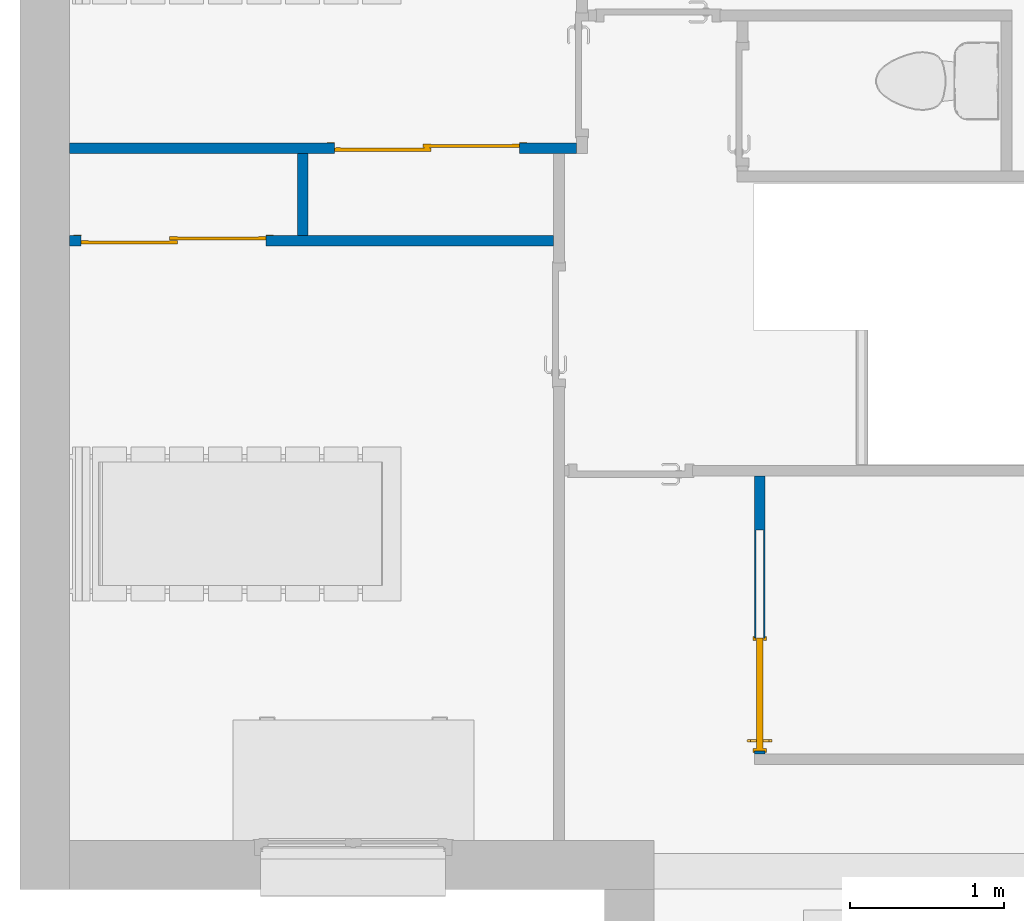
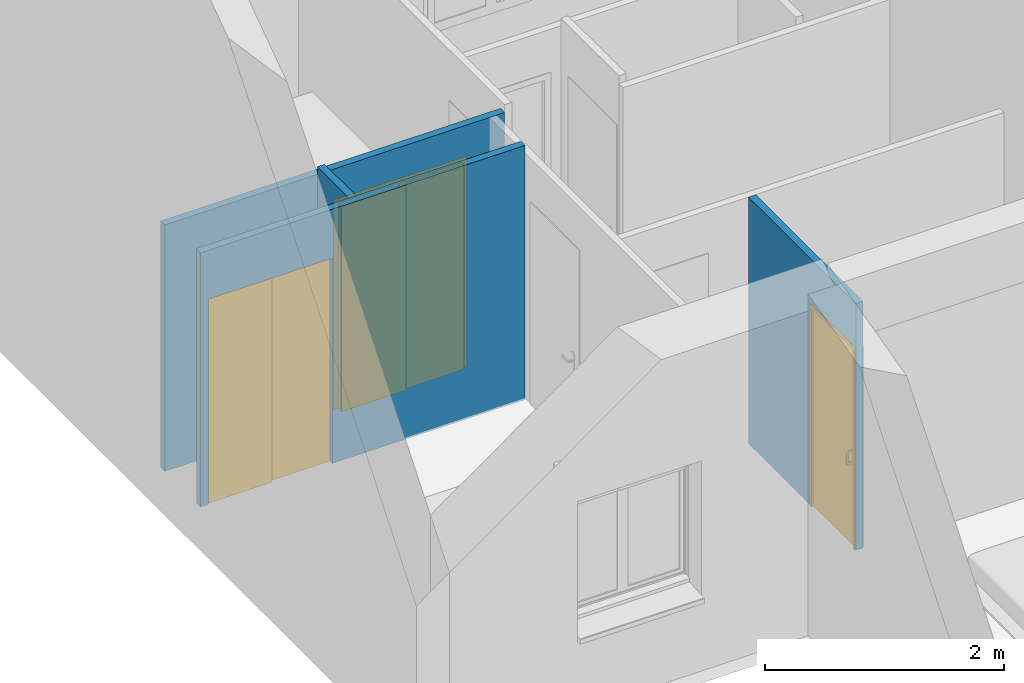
# One storey, part 11 of 50: 4 walls, 3 doors, 3 openings.
"""IFC2X3 building model written with IfcOpenShell, lengths in metres."""

from ifc_helpers import new_model, entity, si_unit, converted_unit, derived_unit, direction, frame, frame_2d, origin, origin_2d_with_axis, place, context, subcontext, project, spatial, polyline, circle_curve, parameter, trimmed, segment, composite_curve, rectangle, outline, extrude, faceted_brep, source, transform, mapped, material, material_list, layer, layer_set, layer_usage, type_object, type_shapes, element, fill, save


model = new_model("IFC2X3")

# Units and contexts
model_context = context("Model", 3, precision=1e-05, world=origin(), true_north=direction((6.12303176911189e-17, 1.0)))
context_of_model = context(None, 3, precision=1e-05, world=origin(), true_north=direction((6.12303176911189e-17, 1.0)))
body_context = subcontext(model_context, "Body", "Model", "MODEL_VIEW")
ifc_project = project(units=[si_unit("LENGTHUNIT", "METRE"), si_unit("AREAUNIT", "SQUARE_METRE"), si_unit("VOLUMEUNIT", "CUBIC_METRE"), converted_unit("PLANEANGLEUNIT", "DEGREE", entity("IfcRatioMeasure", 0.0174532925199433), si_unit("PLANEANGLEUNIT", "RADIAN"), dimensions=[0, 0, 0, 0, 0, 0, 0]), si_unit("MASSUNIT", "GRAM", prefix="KILO"), si_unit("TIMEUNIT", "SECOND"), si_unit("FREQUENCYUNIT", "HERTZ"), si_unit("THERMODYNAMICTEMPERATUREUNIT", "DEGREE_CELSIUS"), derived_unit("THERMALTRANSMITTANCEUNIT", [(si_unit("MASSUNIT", "GRAM", prefix="KILO"), 1), (si_unit("THERMODYNAMICTEMPERATUREUNIT", "KELVIN"), -1), (si_unit("TIMEUNIT", "SECOND"), -3)]), derived_unit("VOLUMETRICFLOWRATEUNIT", [(si_unit("LENGTHUNIT", "METRE"), 3), (si_unit("TIMEUNIT", "SECOND"), -1)]), si_unit("ELECTRICCURRENTUNIT", "AMPERE"), si_unit("ELECTRICVOLTAGEUNIT", "VOLT"), si_unit("POWERUNIT", "WATT"), si_unit("FORCEUNIT", "NEWTON", prefix="KILO"), si_unit("ILLUMINANCEUNIT", "LUX"), si_unit("LUMINOUSFLUXUNIT", "LUMEN"), si_unit("LUMINOUSINTENSITYUNIT", "CANDELA"), si_unit("PRESSUREUNIT", "PASCAL")], contexts=[model_context, context_of_model])

# Site, building, storey
site_placement = place(None, origin())
site = spatial("IfcSite", under=ifc_project, at=site_placement, Name="Surface", CompositionType="ELEMENT")
building_placement = place(site_placement, origin())
building = spatial("IfcBuilding", under=site, at=building_placement, CompositionType="ELEMENT")
storey_placement = place(building_placement, frame((0.0, 0.0, 2.82)))
storey = spatial("IfcBuildingStorey", under=building, at=storey_placement, Name="ETAGE", CompositionType="ELEMENT", Elevation=2.82)

# Wall, opening, door
ifc_material_1 = material(Name="Peinture - Blanc")
ifc_layer = layer(ifc_material_1, 0.07)
ifc_layer_set = layer_set([ifc_layer], Name="Mur de base:Int.  Platre 70 mm en blanc")
ifc_layer_usage_1 = layer_usage(ifc_layer_set, "AXIS2", "POSITIVE", -0.035)
wall_type = type_object("IfcWallType", Name="Mur de base:Int.  Platre 70 mm en blanc", PredefinedType="STANDARD", material=ifc_layer_set)
wall_1_placement = place(storey_placement, frame((64.992509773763, 84.6927566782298, 0.0), z_axis=(0.0, 0.0, 1.0), x_axis=(-1.0, 0.0, 0.0)))
wall_1 = element("IfcWallStandardCase", 1, at=wall_1_placement, inside=storey, type_object=wall_type, material=ifc_layer_usage_1, Name="Mur de base:Int.  Platre 70 mm en blanc", ObjectType="Mur de base:Int.  Platre 70 mm en blanc", context=body_context, shape_type="SweptSolid", body=[
    extrude(rectangle(XDim=3.28614635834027, YDim=0.0699999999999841, at=frame_2d((1.64307317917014, -2.37310171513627e-15), x_axis=(-1.0, 0.0))), origin(), (0.0, 0.0, 1.0), 2.52),
])
opening_1_placement = place(wall_1_placement, frame((1.56869914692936, 0.035000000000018, 0.0)))
opening_1 = element("IfcOpeningElement", 2, at=opening_1_placement, cuts=wall_1, Name="Placard coulissante - 2 panneaux:Placard coulissante - 2 panneaux:1", ObjectType="Opening", context=body_context, shape_type="SweptSolid", body=[
    extrude(rectangle(XDim=2.09999999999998, YDim=1.2, at=frame_2d((1.04999999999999, 0.6), x_axis=(1.0, 0.0))), frame((0.0, 0.0, 0.0), z_axis=(0.0, -1.0, 0.0), x_axis=(0.0, 0.0, 1.0)), (0.0, 0.0, 1.0), 0.07),
])
ifc_material_2 = material(Name="Placard - Profil")
ifc_material_3 = material(Name="Placard - Encadrement")
ifc_material_4 = material(Name="Placard - Porte")
ifc_material_list_1 = material_list([ifc_material_2, ifc_material_3, ifc_material_4])
ifc_material_list_2 = material_list([ifc_material_2, ifc_material_3, ifc_material_4])
door_style_1 = type_object("IfcDoorStyle", Name="Placard coulissante - 2 panneaux", ConstructionType="NOTDEFINED", OperationType="SLIDING_TO_RIGHT", ParameterTakesPrecedence=False, Sizeable=False, material=ifc_material_list_2)
shared_shape_1 = source(origin(), body_context, "Body", "SweptSolid", [
    extrude(outline(composite_curve([segment(polyline([(-0.00100000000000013, -0.0249999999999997), (0.00100000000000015, -0.0249999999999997)]), True, "CONTINUOUS"), segment(trimmed(circle_curve(frame_2d((-0.212860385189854, 0.0), x_axis=(0.0, -1.0)), 0.215316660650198), [parameter(83.3324595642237)], [parameter(96.6675404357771)], True, "PARAMETER"), True, "CONTINUOUS"), segment(polyline([(0.00100000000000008, 0.0249999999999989), (-0.00100000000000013, 0.0250000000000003)]), True, "CONTINUOUS"), segment(polyline([(-0.00100000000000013, 0.0250000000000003), (-0.00100000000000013, -0.0249999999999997)]), True, "CONTINUOUS")], self_intersect=False)), frame((0.0250000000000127, 0.00900000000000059, 0.0), z_axis=(0.0, 0.0, 1.0), x_axis=(0.0, -1.0, 0.0)), (0.0, 0.0, 1.0), 2.1),
    extrude(outline(composite_curve([segment(polyline([(-0.00100000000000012, -0.0249999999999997), (0.00100000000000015, -0.0249999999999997)]), True, "CONTINUOUS"), segment(trimmed(circle_curve(frame_2d((-0.212860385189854, 0.0), x_axis=(0.0, -1.0)), 0.215316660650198), [parameter(83.3324595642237)], [parameter(96.6675404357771)], True, "PARAMETER"), True, "CONTINUOUS"), segment(polyline([(0.00100000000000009, 0.0249999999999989), (-0.00100000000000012, 0.0250000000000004)]), True, "CONTINUOUS"), segment(polyline([(-0.00100000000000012, 0.0250000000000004), (-0.00100000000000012, -0.0249999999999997)]), True, "CONTINUOUS")], self_intersect=False)), frame((0.600000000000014, 0.00900000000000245, 0.0), z_axis=(0.0, 0.0, 1.0), x_axis=(0.0, -1.0, 0.0)), (0.0, 0.0, 1.0), 2.1),
    extrude(outline(composite_curve([segment(polyline([(-0.00100000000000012, -0.0249999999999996), (0.00100000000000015, -0.0249999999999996)]), True, "CONTINUOUS"), segment(trimmed(circle_curve(frame_2d((-0.212860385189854, 0.0), x_axis=(0.0, -1.0)), 0.215316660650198), [parameter(83.3324595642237)], [parameter(96.6675404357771)], True, "PARAMETER"), True, "CONTINUOUS"), segment(polyline([(0.00100000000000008, 0.0249999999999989), (-0.00100000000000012, 0.0250000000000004)]), True, "CONTINUOUS"), segment(polyline([(-0.00100000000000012, 0.0250000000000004), (-0.00100000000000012, -0.0249999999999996)]), True, "CONTINUOUS")], self_intersect=False)), frame((0.600000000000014, 0.0340000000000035, 0.0), z_axis=(0.0, 0.0, 1.0), x_axis=(0.0, -1.0, 0.0)), (0.0, 0.0, 1.0), 2.1),
    extrude(outline(composite_curve([segment(polyline([(-0.00100000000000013, -0.0249999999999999), (0.00100000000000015, -0.0249999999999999)]), True, "CONTINUOUS"), segment(trimmed(circle_curve(frame_2d((-0.212860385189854, 0.0), x_axis=(0.0, -1.0)), 0.215316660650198), [parameter(83.3324595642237)], [parameter(96.6675404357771)], True, "PARAMETER"), True, "CONTINUOUS"), segment(polyline([(0.00100000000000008, 0.0249999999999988), (-0.00100000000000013, 0.0250000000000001)]), True, "CONTINUOUS"), segment(polyline([(-0.00100000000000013, 0.0250000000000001), (-0.00100000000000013, -0.0249999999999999)]), True, "CONTINUOUS")], self_intersect=False)), frame((1.17500000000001, 0.0340000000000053, 0.0), z_axis=(0.0, 0.0, 1.0), x_axis=(0.0, -1.0, 0.0)), (0.0, 0.0, 1.0), 2.1),
    extrude(outline(polyline([(0.597999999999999, -1.06149999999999), (0.647999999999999, -1.06149999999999), (0.647999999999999, 1.08649999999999), (-0.647999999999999, 1.08649999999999), (-0.647999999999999, -1.06149999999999), (-0.597999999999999, -1.06149999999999), (-0.597999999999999, 1.03649999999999), (0.597999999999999, 1.03649999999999), (0.597999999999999, -1.06149999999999)])), frame((0.600000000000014, 0.0, 1.06149999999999), z_axis=(0.0, -1.0, 0.0), x_axis=(1.0, 0.0, 0.0)), (0.0, 0.0, 1.0), 0.003),
    extrude(rectangle(XDim=0.625000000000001, YDim=0.020000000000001, at=origin_2d_with_axis()), frame((0.312500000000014, 0.0200000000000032, 0.0)), (0.0, 0.0, 1.0), 2.1),
    extrude(rectangle(XDim=0.624999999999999, YDim=0.02, at=origin_2d_with_axis()), frame((0.887500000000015, 0.0450000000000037, 0.0)), (0.0, 0.0, 1.0), 2.1),
])
type_shapes(door_style_1, [shared_shape_1])
door_1_placement = place(opening_1_placement, frame((-1.20000000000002, -0.0700000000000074, 0.0)))
door_1 = element("IfcDoor", 3, at=door_1_placement, inside=storey, type_object=door_style_1, material=ifc_material_list_1, Name="Placard coulissante - 2 panneaux:Placard coulissante - 2 panneaux", ObjectType="Placard coulissante - 2 panneaux", OverallHeight=2.09999999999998, OverallWidth=1.2, context=body_context, shape_type="MappedRepresentation", body=[
    mapped(shared_shape_1, transform((0.0, 0.0, 0.0), scale=1.0)),
])
fill(opening_1, door_1)

ifc_layer_usage_2 = layer_usage(ifc_layer_set, "AXIS2", "POSITIVE", -0.035)
wall_2_placement = place(storey_placement, frame((64.8446263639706, 84.0927566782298, 0.0), z_axis=(0.0, 0.0, 1.0), x_axis=(-1.0, 0.0, 0.0)))
wall_2 = element("IfcWallStandardCase", 4, at=wall_2_placement, inside=storey, type_object=wall_type, material=ifc_layer_usage_2, Name="Mur de base:Int.  Platre 70 mm en blanc", ObjectType="Mur de base:Int.  Platre 70 mm en blanc", context=body_context, shape_type="SweptSolid", body=[
    extrude(rectangle(XDim=3.13826294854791, YDim=0.0699999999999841, at=frame_2d((1.56913147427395, -8.15320033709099e-16), x_axis=(-1.0, 0.0))), origin(), (0.0, 0.0, 1.0), 2.6),
])
opening_2_placement = place(wall_2_placement, frame((3.06326294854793, 0.0350000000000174, 0.0)))
opening_2 = element("IfcOpeningElement", 5, at=opening_2_placement, cuts=wall_2, Name="Placard coulissante - 2 panneaux:Placard coulissante - 2 panneaux:1", ObjectType="Opening", context=body_context, shape_type="SweptSolid", body=[
    extrude(rectangle(XDim=2.09999999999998, YDim=1.2, at=frame_2d((1.04999999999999, 0.6), x_axis=(1.0, 0.0))), frame((0.0, 0.0, 0.0), z_axis=(0.0, -1.0, 0.0), x_axis=(0.0, 0.0, 1.0)), (0.0, 0.0, 1.0), 0.07),
])
ifc_material_list_3 = material_list([ifc_material_2, ifc_material_3, ifc_material_4])
door_2_placement = place(opening_2_placement, frame((-1.20000000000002, -0.0699999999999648, 0.0)))
door_2 = element("IfcDoor", 6, at=door_2_placement, inside=storey, type_object=door_style_1, material=ifc_material_list_3, Name="Placard coulissante - 2 panneaux:Placard coulissante - 2 panneaux", ObjectType="Placard coulissante - 2 panneaux", OverallHeight=2.09999999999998, OverallWidth=1.2, context=body_context, shape_type="MappedRepresentation", body=[
    mapped(shared_shape_1, transform((0.0, 0.0, 0.0), scale=1.0)),
])
fill(opening_2, door_2)

# Wall
ifc_layer_usage_3 = layer_usage(ifc_layer_set, "AXIS2", "POSITIVE", -0.035)
wall_3_placement = place(storey_placement, frame((63.2179948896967, 84.1277566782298, 0.0), z_axis=(0.0, 0.0, 1.0), x_axis=(0.0, 1.0, 0.0)))
element("IfcWallStandardCase", 7, at=wall_3_placement, inside=storey, type_object=wall_type, material=ifc_layer_usage_3, Name="Mur de base:Int.  Platre 70 mm en blanc", ObjectType="Mur de base:Int.  Platre 70 mm en blanc", context=body_context, shape_type="SweptSolid", body=[
    extrude(rectangle(XDim=0.530000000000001, YDim=0.0700000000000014, at=frame_2d((0.265, -1.74513181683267e-15), x_axis=(-1.0, 0.0))), origin(), (0.0, 0.0, 1.0), 2.6),
])

# Wall, opening, door
ifc_layer_usage_4 = layer_usage(ifc_layer_set, "AXIS2", "POSITIVE", -0.035)
wall_4_placement = place(storey_placement, frame((66.1796263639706, 82.5677566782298, 0.0), z_axis=(0.0, 0.0, 1.0), x_axis=(0.0, -1.0, 0.0)))
wall_4 = element("IfcWallStandardCase", 8, at=wall_4_placement, inside=storey, type_object=wall_type, material=ifc_layer_usage_4, Name="Mur de base:Int.  Platre 70 mm en blanc", ObjectType="Mur de base:Int.  Platre 70 mm en blanc", context=body_context, shape_type="SweptSolid", body=[
    extrude(rectangle(XDim=1.80000000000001, YDim=0.0700000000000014, at=frame_2d((0.900000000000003, -1.59247615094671e-15), x_axis=(-1.0, 0.0))), origin(), (0.0, 0.0, 1.0), 2.52),
])
opening_3_placement = place(wall_4_placement, frame((1.77999999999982, -0.18500000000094, 0.0), z_axis=(0.0, 0.0, 1.0), x_axis=(0.0, 1.0, 0.0)))
opening_3 = element("IfcOpeningElement", 9, at=opening_3_placement, cuts=wall_4, Name="Mur de base:Int.  Platre 70 mm en blanc", ObjectType="Opening", context=body_context, shape_type="Brep", body=[
    faceted_brep([(0.0, 0.0, 2.055), (0.0, 0.0, 0.0), (0.370000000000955, 0.0, 0.0), (0.370000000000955, 0.0, 2.055), (0.0, 0.729999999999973, 2.055), (0.0, 0.729999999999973, 0.0), (0.16000000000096, 0.729999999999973, 2.055), (0.16000000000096, 0.729999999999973, 0.0), (0.160000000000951, 1.42999999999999, 2.055), (0.160000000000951, 1.42999999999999, 0.0), (0.210000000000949, 1.42999999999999, 2.055), (0.210000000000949, 1.42999999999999, 0.0), (0.210000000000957, 0.729999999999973, 2.055), (0.210000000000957, 0.729999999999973, 0.0), (0.370000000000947, 0.72999999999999, 2.055), (0.370000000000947, 0.72999999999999, 0.0)], [[[0, 1, 2, 3]], [[4, 5, 1, 0]], [[6, 7, 5, 4]], [[8, 9, 7, 6]], [[10, 11, 9, 8]], [[12, 13, 11, 10]], [[14, 12, 10, 8, 6, 4, 0, 3]], [[15, 2, 1, 5, 7, 9, 11, 13]], [[3, 2, 15, 14]], [[14, 15, 13, 12]]]),
])
ifc_material_5 = material(Name="Porte - Poignée")
ifc_material_6 = material(Name="Porte - Panneau")
ifc_material_7 = material(Name="Porte - Cadre")
ifc_material_list_4 = material_list([ifc_material_5, ifc_material_6, ifc_material_7])
ifc_material_list_5 = material_list([ifc_material_5, ifc_material_6, ifc_material_7])
door_style_2 = type_object("IfcDoorStyle", Name="0.70m x 2.04m 2", ConstructionType="NOTDEFINED", OperationType="SLIDING_TO_LEFT", ParameterTakesPrecedence=False, Sizeable=False, material=ifc_material_list_5)
shared_shape_2 = source(origin(), body_context, "Body", "Brep", [
    faceted_brep([(0.778370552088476, 0.300805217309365, 0.949316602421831), (0.783009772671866, 0.300805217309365, 0.94874401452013), (0.787648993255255, 0.300805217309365, 0.94931660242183), (0.792009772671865, 0.300805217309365, 0.951000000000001), (0.792009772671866, 0.300805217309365, 0.969), (0.787648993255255, 0.300805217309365, 0.97068339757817), (0.783009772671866, 0.300805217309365, 0.971255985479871), (0.778370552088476, 0.300805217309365, 0.97068339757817), (0.774009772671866, 0.300805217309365, 0.969), (0.774009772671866, 0.300805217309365, 0.951000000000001), (0.778370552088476, 0.300805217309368, 0.850683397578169), (0.774009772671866, 0.300805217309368, 0.848999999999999), (0.774009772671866, 0.300805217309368, 0.831), (0.778370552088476, 0.300805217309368, 0.829316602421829), (0.783009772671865, 0.300805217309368, 0.828744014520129), (0.787648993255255, 0.300805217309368, 0.829316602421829), (0.792009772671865, 0.300805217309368, 0.831), (0.792009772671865, 0.300805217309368, 0.848999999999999), (0.787648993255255, 0.300805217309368, 0.850683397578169), (0.783009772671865, 0.300805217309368, 0.85125598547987), (0.792009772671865, 0.339533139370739, 0.831), (0.792009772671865, 0.359805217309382, 0.851272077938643), (0.792009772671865, 0.359805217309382, 0.948727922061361), (0.792009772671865, 0.33953313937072, 0.969), (0.792009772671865, 0.33207729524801, 0.951000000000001), (0.792009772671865, 0.341805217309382, 0.941272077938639), (0.792009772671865, 0.341805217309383, 0.858727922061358), (0.792009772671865, 0.332077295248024, 0.848999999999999), (0.787648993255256, 0.340230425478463, 0.97068339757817), (0.783009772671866, 0.340467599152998, 0.971255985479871), (0.778370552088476, 0.340230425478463, 0.97068339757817), (0.774009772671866, 0.33953313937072, 0.969), (0.774009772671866, 0.359805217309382, 0.948727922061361), (0.774009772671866, 0.359805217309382, 0.851272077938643), (0.774009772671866, 0.339533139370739, 0.831), (0.774009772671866, 0.332077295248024, 0.848999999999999), (0.774009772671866, 0.341805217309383, 0.858727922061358), (0.774009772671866, 0.341805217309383, 0.94127207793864), (0.774009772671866, 0.33207729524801, 0.951000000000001), (0.778370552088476, 0.331380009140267, 0.949316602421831), (0.783009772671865, 0.331142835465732, 0.94874401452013), (0.787648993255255, 0.331380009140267, 0.94931660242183), (0.787648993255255, 0.361488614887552, 0.949425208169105), (0.783009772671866, 0.362061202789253, 0.949662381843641), (0.778370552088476, 0.361488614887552, 0.949425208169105), (0.778370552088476, 0.340121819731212, 0.940574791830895), (0.783009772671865, 0.339549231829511, 0.940337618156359), (0.787648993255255, 0.340121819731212, 0.940574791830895), (0.787648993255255, 0.361488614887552, 0.850574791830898), (0.783009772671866, 0.362061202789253, 0.850337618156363), (0.778370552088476, 0.361488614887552, 0.850574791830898), (0.778370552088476, 0.340121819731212, 0.859425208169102), (0.783009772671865, 0.339549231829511, 0.859662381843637), (0.787648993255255, 0.340121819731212, 0.859425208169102), (0.787648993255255, 0.340230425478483, 0.829316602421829), (0.783009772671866, 0.340467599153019, 0.828744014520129), (0.778370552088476, 0.340230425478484, 0.829316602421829), (0.778370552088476, 0.33138000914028, 0.850683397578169), (0.783009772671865, 0.331142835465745, 0.85125598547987), (0.787648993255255, 0.33138000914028, 0.850683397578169)], [[[0, 1, 2, 3, 4, 5, 6, 7, 8, 9]], [[10, 11, 12, 13, 14, 15, 16, 17, 18, 19]], [[16, 20, 21, 22, 23, 4, 3, 24, 25, 26, 27, 17]], [[23, 28, 5, 4]], [[5, 28, 29, 6]], [[30, 7, 6, 29]], [[7, 30, 31, 8]], [[8, 31, 32, 33, 34, 12, 11, 35, 36, 37, 38, 9]], [[38, 39, 0, 9]], [[1, 0, 39, 40]], [[41, 24, 3, 2]], [[41, 2, 1, 40]], [[22, 42, 28, 23]], [[28, 42, 43, 29]], [[43, 44, 30, 29]], [[44, 32, 31, 30]], [[37, 45, 39, 38]], [[39, 45, 46, 40]], [[47, 25, 24, 41]], [[41, 40, 46, 47]], [[21, 48, 42, 22]], [[42, 48, 49, 43]], [[49, 50, 44, 43]], [[50, 33, 32, 44]], [[36, 51, 45, 37]], [[46, 45, 51, 52]], [[53, 26, 25, 47]], [[53, 47, 46, 52]], [[20, 54, 48, 21]], [[48, 54, 55, 49]], [[55, 56, 50, 49]], [[56, 34, 33, 50]], [[35, 57, 51, 36]], [[51, 57, 58, 52]], [[59, 27, 26, 53]], [[53, 52, 58, 59]], [[16, 15, 54, 20]], [[55, 54, 15, 14]], [[13, 12, 34, 56]], [[13, 56, 55, 14]], [[11, 10, 57, 35]], [[58, 57, 10, 19]], [[18, 17, 27, 59]], [[59, 58, 19, 18]]]),
    faceted_brep([(0.778370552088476, 0.260805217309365, 0.97068339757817), (0.783009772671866, 0.260805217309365, 0.971255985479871), (0.787648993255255, 0.260805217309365, 0.97068339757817), (0.792009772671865, 0.260805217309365, 0.969), (0.792009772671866, 0.260805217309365, 0.951000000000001), (0.787648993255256, 0.260805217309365, 0.94931660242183), (0.783009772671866, 0.260805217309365, 0.94874401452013), (0.778370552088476, 0.260805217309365, 0.94931660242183), (0.774009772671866, 0.260805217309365, 0.951000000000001), (0.774009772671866, 0.260805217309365, 0.969), (0.783009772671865, 0.260805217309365, 0.828744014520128), (0.778370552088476, 0.260805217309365, 0.829316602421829), (0.774009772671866, 0.260805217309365, 0.831), (0.774009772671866, 0.260805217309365, 0.848999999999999), (0.778370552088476, 0.260805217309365, 0.850683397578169), (0.783009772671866, 0.260805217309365, 0.85125598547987), (0.787648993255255, 0.260805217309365, 0.850683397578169), (0.792009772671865, 0.260805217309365, 0.848999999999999), (0.792009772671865, 0.260805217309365, 0.831), (0.787648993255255, 0.260805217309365, 0.829316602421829), (0.774009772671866, 0.222077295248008, 0.969), (0.778370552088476, 0.221380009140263, 0.97068339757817), (0.783009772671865, 0.221142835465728, 0.971255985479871), (0.787648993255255, 0.221380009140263, 0.970683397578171), (0.792009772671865, 0.222077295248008, 0.969), (0.792009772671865, 0.201805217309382, 0.948727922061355), (0.792009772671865, 0.201805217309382, 0.851272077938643), (0.792009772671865, 0.222077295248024, 0.831), (0.792009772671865, 0.22953313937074, 0.848999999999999), (0.792009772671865, 0.219805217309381, 0.858727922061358), (0.792009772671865, 0.219805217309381, 0.941272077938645), (0.792009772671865, 0.229533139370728, 0.951000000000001), (0.787648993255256, 0.230230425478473, 0.94931660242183), (0.783009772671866, 0.230467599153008, 0.94874401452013), (0.778370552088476, 0.230230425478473, 0.94931660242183), (0.774009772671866, 0.229533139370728, 0.951000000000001), (0.774009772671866, 0.222077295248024, 0.831), (0.774009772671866, 0.201805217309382, 0.851272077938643), (0.774009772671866, 0.201805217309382, 0.948727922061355), (0.774009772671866, 0.219805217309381, 0.941272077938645), (0.774009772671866, 0.219805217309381, 0.858727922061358), (0.774009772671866, 0.229533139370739, 0.848999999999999), (0.778370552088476, 0.200121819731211, 0.949425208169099), (0.783009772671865, 0.199549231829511, 0.949662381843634), (0.787648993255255, 0.200121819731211, 0.949425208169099), (0.787648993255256, 0.221488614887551, 0.940574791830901), (0.783009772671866, 0.222061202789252, 0.940337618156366), (0.778370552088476, 0.221488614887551, 0.940574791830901), (0.778370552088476, 0.200121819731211, 0.850574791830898), (0.783009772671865, 0.19954923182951, 0.850337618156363), (0.787648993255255, 0.200121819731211, 0.850574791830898), (0.787648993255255, 0.221488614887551, 0.859425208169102), (0.783009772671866, 0.222061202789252, 0.859662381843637), (0.778370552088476, 0.221488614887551, 0.859425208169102), (0.778370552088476, 0.22138000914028, 0.829316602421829), (0.783009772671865, 0.221142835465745, 0.828744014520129), (0.787648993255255, 0.22138000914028, 0.829316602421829), (0.787648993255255, 0.230230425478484, 0.850683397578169), (0.783009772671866, 0.230467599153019, 0.85125598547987), (0.778370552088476, 0.230230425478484, 0.850683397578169)], [[[0, 1, 2, 3, 4, 5, 6, 7, 8, 9]], [[10, 11, 12, 13, 14, 15, 16, 17, 18, 19]], [[20, 21, 0, 9]], [[0, 21, 22, 1]], [[23, 2, 1, 22]], [[2, 23, 24, 3]], [[3, 24, 25, 26, 27, 18, 17, 28, 29, 30, 31, 4]], [[31, 32, 5, 4]], [[6, 5, 32, 33]], [[34, 35, 8, 7]], [[34, 7, 6, 33]], [[12, 36, 37, 38, 20, 9, 8, 35, 39, 40, 41, 13]], [[38, 42, 21, 20]], [[21, 42, 43, 22]], [[43, 44, 23, 22]], [[44, 25, 24, 23]], [[30, 45, 32, 31]], [[32, 45, 46, 33]], [[47, 39, 35, 34]], [[34, 33, 46, 47]], [[37, 48, 42, 38]], [[42, 48, 49, 43]], [[49, 50, 44, 43]], [[50, 26, 25, 44]], [[29, 51, 45, 30]], [[46, 45, 51, 52]], [[53, 40, 39, 47]], [[53, 47, 46, 52]], [[36, 54, 48, 37]], [[48, 54, 55, 49]], [[55, 56, 50, 49]], [[56, 27, 26, 50]], [[28, 57, 51, 29]], [[51, 57, 58, 52]], [[59, 41, 40, 53]], [[53, 52, 58, 59]], [[12, 11, 54, 36]], [[55, 54, 11, 10]], [[19, 18, 27, 56]], [[19, 56, 55, 10]], [[17, 16, 57, 28]], [[58, 57, 16, 15]], [[14, 13, 41, 59]], [[59, 58, 15, 14]]]),
    faceted_brep([(0.733009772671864, 0.260805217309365, 2.04), (1.44800977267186, 0.260805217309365, 2.04), (1.44800977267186, 0.300805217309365, 2.04), (0.733009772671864, 0.300805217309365, 2.04), (0.733009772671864, 0.260805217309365, 0.0), (0.733009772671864, 0.300805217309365, 0.0), (1.44800977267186, 0.300805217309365, 0.0), (1.44800977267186, 0.260805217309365, 0.0)], [[[0, 1, 2, 3]], [[4, 5, 6, 7]], [[3, 5, 4, 0]], [[2, 6, 5, 3]], [[1, 7, 6, 2]], [[0, 4, 7, 1]]]),
    faceted_brep([(1.44800977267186, 0.315805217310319, 0.0), (1.44800977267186, 0.305805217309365, 0.0), (1.43300977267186, 0.305805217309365, 0.0), (1.43300977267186, 0.323805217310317, 0.0), (1.45800977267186, 0.323805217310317, 0.0), (1.45800977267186, 0.315805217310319, 0.0), (1.45800977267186, 0.315805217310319, 2.065), (0.708009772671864, 0.315805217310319, 2.065), (0.708009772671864, 0.315805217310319, 0.0), (0.718009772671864, 0.315805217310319, 0.0), (0.718009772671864, 0.315805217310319, 2.055), (1.44800977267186, 0.315805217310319, 2.055), (1.45800977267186, 0.323805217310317, 2.065), (1.43300977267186, 0.323805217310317, 2.04), (0.733009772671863, 0.323805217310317, 2.04), (0.733009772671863, 0.323805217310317, 0.0), (0.708009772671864, 0.323805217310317, 0.0), (0.708009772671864, 0.323805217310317, 2.065), (1.43300977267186, 0.305805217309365, 2.04), (1.44800977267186, 0.305805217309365, 2.04), (1.44800977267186, 0.245805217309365, 0.0), (1.44800977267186, 0.255805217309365, 0.0), (1.44800977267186, 0.255805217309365, 2.04), (1.44800977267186, 0.245805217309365, 2.055), (1.45800977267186, 0.237805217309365, 0.0), (1.45800977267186, 0.237805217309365, 2.065), (0.708009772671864, 0.237805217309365, 2.065), (0.708009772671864, 0.237805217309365, 0.0), (0.733009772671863, 0.237805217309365, 0.0), (0.733009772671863, 0.237805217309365, 2.04), (1.43300977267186, 0.237805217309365, 2.04), (1.43300977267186, 0.237805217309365, 0.0), (1.45800977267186, 0.245805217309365, 0.0), (1.45800977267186, 0.245805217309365, 2.065), (0.718009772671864, 0.245805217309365, 2.055), (0.718009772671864, 0.245805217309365, 0.0), (0.708009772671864, 0.245805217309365, 0.0), (0.708009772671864, 0.245805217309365, 2.065), (1.43300977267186, 0.255805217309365, 0.0), (1.43300977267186, 0.255805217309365, 2.04)], [[[0, 1, 2, 3, 4, 5]], [[5, 6, 7, 8, 9, 10, 11, 0]], [[4, 12, 6, 5]], [[3, 13, 14, 15, 16, 17, 12, 4]], [[3, 2, 18, 13]], [[18, 2, 1, 19]], [[20, 21, 22, 19, 1, 0, 11, 23]], [[24, 25, 26, 27, 28, 29, 30, 31]], [[32, 33, 25, 24]], [[20, 23, 34, 35, 36, 37, 33, 32]], [[22, 21, 38, 39]], [[9, 35, 34, 10]], [[8, 16, 15, 28, 27, 36, 35, 9]], [[7, 17, 16, 8]], [[14, 29, 28, 15]], [[26, 37, 36, 27]], [[11, 10, 34, 23]], [[6, 12, 17, 7]], [[13, 18, 19, 22, 39, 30, 29, 14]], [[25, 33, 37, 26]], [[30, 39, 38, 31]], [[31, 38, 21, 20, 32, 24]]]),
])
type_shapes(door_style_2, [shared_shape_2])
door_3_placement = place(opening_3_placement, frame((0.465805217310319, -0.718009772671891, 0.0), z_axis=(0.0, 0.0, 1.0), x_axis=(0.0, 1.0, 0.0)))
door_3 = element("IfcDoor", 10, at=door_3_placement, inside=storey, type_object=door_style_2, material=ifc_material_list_4, Name="Coulissante - Encastrée:0.70m x 2.04m 2", ObjectType="0.70m x 2.04m 2", OverallHeight=2.065, OverallWidth=1.44000000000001, context=body_context, shape_type="MappedRepresentation", body=[
    mapped(shared_shape_2, transform((0.0, 0.0, 0.0), scale=1.0)),
])
fill(opening_3, door_3)

save(model, "model.ifc")
